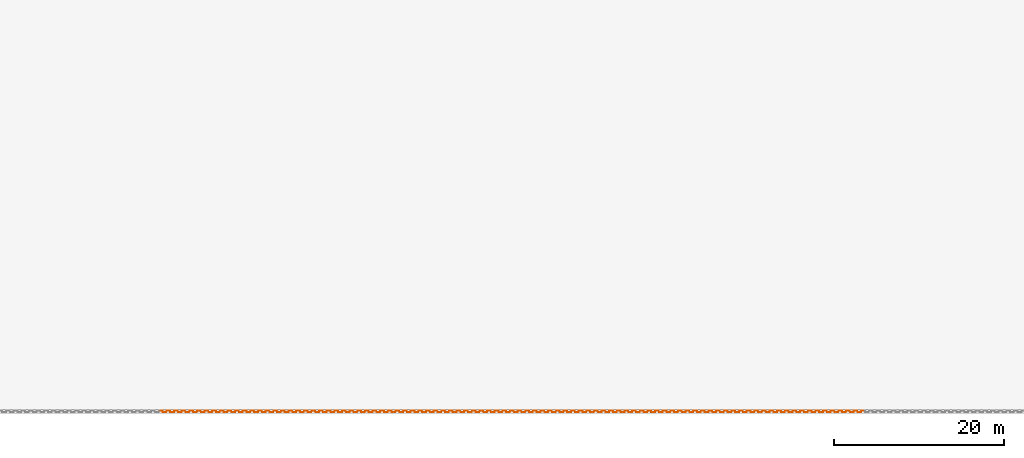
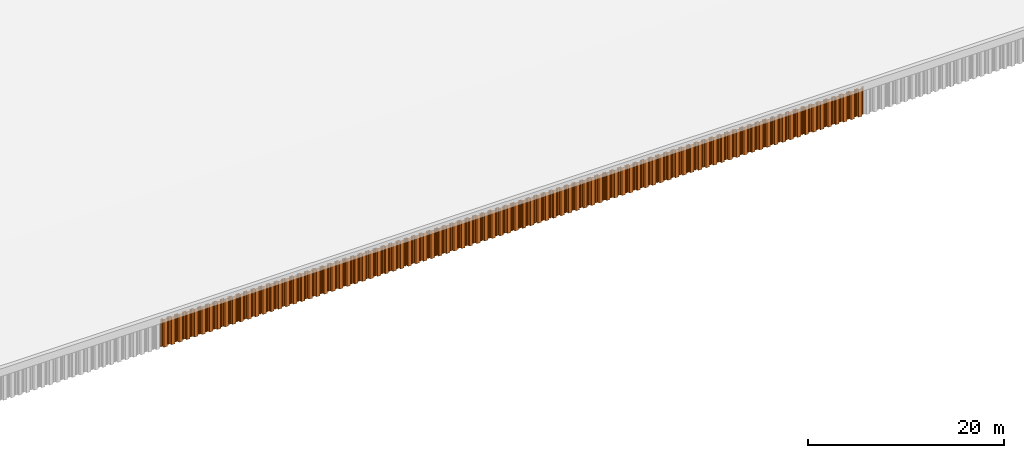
# One storey, part 17 of 32: 92 proxies.
"""IFC2X3 building model written with IfcOpenShell, lengths in millimetres."""

from ifc_helpers import new_model, entity, si_unit, converted_unit, derived_unit, direction, frame, frame_2d, origin, place, context, subcontext, project, spatial, polyline, circle_curve, parameter, trimmed, segment, composite_curve, outline, extrude, source, transform, mapped, type_object, type_shapes, element, save


model = new_model("IFC2X3")

# Units and contexts
model_context = context("Model", 3, precision=0.01, world=origin(), true_north=direction((6.12303176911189e-17, 1.0)))
body_context = subcontext(model_context, "Body", "Model", "MODEL_VIEW")
ifc_project = project(units=[si_unit("LENGTHUNIT", "METRE", prefix="MILLI"), si_unit("AREAUNIT", "SQUARE_METRE"), si_unit("VOLUMEUNIT", "CUBIC_METRE"), converted_unit("PLANEANGLEUNIT", "DEGREE", entity("IfcRatioMeasure", 0.0174532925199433), si_unit("PLANEANGLEUNIT", "RADIAN"), dimensions=[0, 0, 0, 0, 0, 0, 0]), si_unit("MASSUNIT", "GRAM", prefix="KILO"), derived_unit("MASSDENSITYUNIT", [(si_unit("MASSUNIT", "GRAM", prefix="KILO"), 1), (si_unit("LENGTHUNIT", "METRE"), -3)]), si_unit("TIMEUNIT", "SECOND"), si_unit("FREQUENCYUNIT", "HERTZ"), si_unit("THERMODYNAMICTEMPERATUREUNIT", "DEGREE_CELSIUS"), derived_unit("THERMALTRANSMITTANCEUNIT", [(si_unit("MASSUNIT", "GRAM", prefix="KILO"), 1), (si_unit("THERMODYNAMICTEMPERATUREUNIT", "KELVIN"), -1), (si_unit("TIMEUNIT", "SECOND"), -3)]), derived_unit("VOLUMETRICFLOWRATEUNIT", [(si_unit("LENGTHUNIT", "METRE"), 3), (si_unit("TIMEUNIT", "SECOND"), -1)]), si_unit("ELECTRICCURRENTUNIT", "AMPERE"), si_unit("ELECTRICVOLTAGEUNIT", "VOLT"), si_unit("POWERUNIT", "WATT"), si_unit("FORCEUNIT", "NEWTON", prefix="KILO"), si_unit("ILLUMINANCEUNIT", "LUX"), si_unit("LUMINOUSFLUXUNIT", "LUMEN"), si_unit("LUMINOUSINTENSITYUNIT", "CANDELA"), derived_unit("USERDEFINED", [(si_unit("MASSUNIT", "GRAM", prefix="KILO"), -1), (si_unit("LENGTHUNIT", "METRE"), -2), (si_unit("TIMEUNIT", "SECOND"), 3), (si_unit("LUMINOUSFLUXUNIT", "LUMEN"), 1)]), derived_unit("LINEARVELOCITYUNIT", [(si_unit("LENGTHUNIT", "METRE"), 1), (si_unit("TIMEUNIT", "SECOND"), -1)]), si_unit("PRESSUREUNIT", "PASCAL"), derived_unit("USERDEFINED", [(si_unit("LENGTHUNIT", "METRE"), -2), (si_unit("MASSUNIT", "GRAM", prefix="KILO"), 1), (si_unit("TIMEUNIT", "SECOND"), -2)])], contexts=[model_context])

# Site, building, storey
site_placement = place(None, origin())
site = spatial("IfcSite", under=ifc_project, at=site_placement, Name="Default", CompositionType="ELEMENT")
building_placement = place(site_placement, origin())
building = spatial("IfcBuilding", under=site, at=building_placement, CompositionType="ELEMENT")
storey_placement = place(building_placement, origin())
storey = spatial("IfcBuildingStorey", under=building, at=storey_placement, Name="矢板", CompositionType="ELEMENT", Elevation=0.0)

# Proxies
building_element_proxy_type = type_object("IfcBuildingElementProxyType", Name="鋼矢板10H型", PredefinedType="NOTDEFINED")
shared_shape = source(origin(), body_context, "Body", "SweptSolid", [
    extrude(outline(composite_curve([segment(trimmed(circle_curve(frame_2d((85.3662976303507, 306.644432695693), x_axis=(0.422618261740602, 0.906307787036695)), 13.885714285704), [parameter(24.9999999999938)], [parameter(90.0000000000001)], True, "PARAMETER"), True, "CONTINUOUS"), segment(polyline([(72.7815666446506, 312.512789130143), (9.8129512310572, 177.476157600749)]), True, "CONTINUOUS"), segment(trimmed(circle_curve(frame_2d((29.3891994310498, 168.347603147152), x_axis=(0.422618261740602, 0.906307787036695)), 21.6), [parameter(90.0000000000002)], [parameter(168.69006752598)], True, "PARAMETER"), True, "CONTINUOUS"), segment(polyline([(16.598697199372, 150.941769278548), (175.329723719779, 34.2998683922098)]), True, "CONTINUOUS"), segment(trimmed(circle_curve(frame_2d((168.93447260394, 25.596951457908), x_axis=(0.422618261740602, 0.906307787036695)), 10.7999999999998), [parameter(270.0)], [parameter(348.690067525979)], True, "PARAMETER"), False, "CONTINUOUS"), segment(polyline([(178.722596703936, 21.0326742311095), (18.2974003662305, -323.000269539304)]), True, "CONTINUOUS"), segment(trimmed(circle_curve(frame_2d((8.50927626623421, -318.435992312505), x_axis=(0.422618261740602, 0.906307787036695)), 10.8), [parameter(191.30993247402)], [parameter(269.999999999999)], True, "PARAMETER"), False, "CONTINUOUS"), segment(polyline([(5.95324328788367, -328.929166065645), (-185.429973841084, -282.310113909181)]), True, "CONTINUOUS"), segment(trimmed(circle_curve(frame_2d((-190.542039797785, -303.296461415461), x_axis=(0.422618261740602, 0.906307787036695)), 21.6000000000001), [parameter(11.3099324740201)], [parameter(90.0000000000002)], True, "PARAMETER"), True, "CONTINUOUS"), segment(polyline([(-210.118287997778, -294.167906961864), (-290.330886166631, -466.184378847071)]), True, "CONTINUOUS"), segment(trimmed(circle_curve(frame_2d((-270.754637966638, -475.312933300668), x_axis=(0.422618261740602, 0.906307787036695)), 21.6), [parameter(90.0000000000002)], [parameter(269.999999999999)], True, "PARAMETER"), True, "CONTINUOUS"), segment(polyline([(-251.178389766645, -484.441487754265), (-249.065298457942, -479.909948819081)]), True, "CONTINUOUS"), segment(polyline([(-249.065298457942, -479.909948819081), (-258.853422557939, -475.345671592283)]), True, "CONTINUOUS"), segment(polyline([(-258.853422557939, -475.345671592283), (-260.966513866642, -479.877210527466)]), True, "CONTINUOUS"), segment(trimmed(circle_curve(frame_2d((-270.754637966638, -475.312933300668), x_axis=(0.422618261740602, 0.906307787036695)), 10.8), [parameter(90.0000000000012)], [parameter(270.0)], True, "PARAMETER"), False, "CONTINUOUS"), segment(polyline([(-280.542762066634, -470.748656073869), (-200.330163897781, -298.732184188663)]), True, "CONTINUOUS"), segment(trimmed(circle_curve(frame_2d((-190.542039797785, -303.296461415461), x_axis=(0.422618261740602, 0.906307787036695)), 10.8), [parameter(11.3099324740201)], [parameter(89.9999999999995)], True, "PARAMETER"), False, "CONTINUOUS"), segment(polyline([(-187.986006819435, -292.803287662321), (3.39721030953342, -339.422339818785)]), True, "CONTINUOUS"), segment(trimmed(circle_curve(frame_2d((8.50927626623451, -318.435992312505), x_axis=(0.422618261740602, 0.906307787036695)), 21.6), [parameter(191.30993247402)], [parameter(270.0)], True, "PARAMETER"), True, "CONTINUOUS"), segment(polyline([(28.0855244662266, -327.564546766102), (188.510720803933, 16.4683970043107)]), True, "CONTINUOUS"), segment(trimmed(circle_curve(frame_2d((168.93447260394, 25.5969514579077), x_axis=(0.422618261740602, 0.906307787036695)), 21.6), [parameter(270.0)], [parameter(348.69006752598)], True, "PARAMETER"), True, "CONTINUOUS"), segment(polyline([(181.724974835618, 43.0027853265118), (22.9939483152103, 159.644686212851)]), True, "CONTINUOUS"), segment(trimmed(circle_curve(frame_2d((29.3891994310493, 168.347603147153), x_axis=(0.422618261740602, 0.906307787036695)), 10.7999999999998), [parameter(89.9999999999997)], [parameter(168.690067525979)], True, "PARAMETER"), False, "CONTINUOUS"), segment(polyline([(19.6010753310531, 172.911880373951), (82.5696907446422, 307.948511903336)]), True, "CONTINUOUS"), segment(trimmed(circle_curve(frame_2d((85.3662976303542, 306.64443269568), x_axis=(0.422618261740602, 0.906307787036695)), 3.08571428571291), [parameter(25.0000000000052)], [parameter(90.0000000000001)], True, "PARAMETER"), False, "CONTINUOUS"), segment(polyline([(85.3662976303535, 309.730146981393), (122.220231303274, 309.730146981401)]), True, "CONTINUOUS"), segment(trimmed(circle_curve(frame_2d((122.220231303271, 323.615861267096), x_axis=(0.422618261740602, 0.906307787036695)), 13.8857142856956), [parameter(205.000000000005)], [parameter(270.0)], True, "PARAMETER"), True, "CONTINUOUS"), segment(polyline([(134.804962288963, 317.747504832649), (141.079261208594, 331.202782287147)]), True, "CONTINUOUS"), segment(trimmed(circle_curve(frame_2d((121.503013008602, 340.331336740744), x_axis=(0.422618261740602, 0.906307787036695)), 21.6), [parameter(270.0)], [parameter(90.0000000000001)], True, "PARAMETER"), True, "CONTINUOUS"), segment(polyline([(101.926764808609, 349.459891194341), (99.8136734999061, 344.928352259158)]), True, "CONTINUOUS"), segment(polyline([(99.8136734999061, 344.928352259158), (109.601797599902, 340.364075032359)]), True, "CONTINUOUS"), segment(polyline([(109.601797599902, 340.364075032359), (111.714888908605, 344.895613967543)]), True, "CONTINUOUS"), segment(trimmed(circle_curve(frame_2d((121.503013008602, 340.331336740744), x_axis=(0.422618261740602, 0.906307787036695)), 10.8), [parameter(270.0)], [parameter(89.9999999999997)], True, "PARAMETER"), False, "CONTINUOUS"), segment(polyline([(131.291137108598, 335.767059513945), (125.01683818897, 322.311782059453)]), True, "CONTINUOUS"), segment(trimmed(circle_curve(frame_2d((122.220231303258, 323.615861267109), x_axis=(0.422618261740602, 0.906307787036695)), 3.08571428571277), [parameter(204.999999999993)], [parameter(270.0)], True, "PARAMETER"), False, "CONTINUOUS"), segment(polyline([(122.220231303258, 320.530146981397), (85.3662976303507, 320.530146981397)]), True, "CONTINUOUS")], self_intersect=False)), frame((95.205667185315, -48.8888888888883, -3500.0), z_axis=(0.0, 0.0, -1.0), x_axis=(0.4226182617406, 0.906307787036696, 0.0)), (0.0, 0.0, -1.0), 3500.0),
])
type_shapes(building_element_proxy_type, [shared_shape])
for number, where, z_axis, x_axis in (
    (1, (61902.4999999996, -52500.0, 5850.0), (0.0, 0.0, 1.0), (-1.0, 0.0, 0.0)),
    (2, (61002.4999999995, -52500.0, 5850.0), (0.0, 0.0, 1.0), (-1.0, 0.0, 0.0)),
    (3, (60102.4999999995, -52500.0, 5850.0), (0.0, 0.0, 1.0), (-1.0, 0.0, 0.0)),
    (4, (59202.4999999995, -52500.0, 5850.0), (0.0, 0.0, 1.0), (-1.0, 0.0, 0.0)),
    (5, (58302.4999999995, -52500.0, 5850.0), (0.0, 0.0, 1.0), (-1.0, 0.0, 0.0)),
    (6, (57402.4999999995, -52500.0, 5850.0), (0.0, 0.0, 1.0), (-1.0, 0.0, 0.0)),
    (7, (56502.4999999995, -52500.0, 5850.0), (0.0, 0.0, 1.0), (-1.0, 0.0, 0.0)),
    (8, (55602.4999999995, -52500.0, 5850.0), (0.0, 0.0, 1.0), (-1.0, 0.0, 0.0)),
    (9, (54702.4999999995, -52500.0, 5850.0), (0.0, 0.0, 1.0), (-1.0, 0.0, 0.0)),
    (10, (53802.4999999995, -52500.0, 5850.0), (0.0, 0.0, 1.0), (-1.0, 0.0, 0.0)),
    (11, (52902.4999999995, -52500.0, 5850.0), (0.0, 0.0, 1.0), (-1.0, 0.0, 0.0)),
    (12, (52002.4999999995, -52500.0, 5850.0), (0.0, 0.0, 1.0), (-1.0, 0.0, 0.0)),
    (13, (51102.4999999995, -52500.0, 5850.0), (0.0, 0.0, 1.0), (-1.0, 0.0, 0.0)),
    (14, (50202.4999999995, -52500.0, 5850.0), (0.0, 0.0, 1.0), (-1.0, 0.0, 0.0)),
    (15, (49302.4999999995, -52500.0, 5850.0), (0.0, 0.0, 1.0), (-1.0, 0.0, 0.0)),
    (16, (48402.4999999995, -52500.0, 5850.0), (0.0, 0.0, 1.0), (-1.0, 0.0, 0.0)),
    (17, (47502.4999999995, -52500.0, 5850.0), (0.0, 0.0, 1.0), (-1.0, 0.0, 0.0)),
    (18, (46602.4999999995, -52500.0, 5850.0), (0.0, 0.0, 1.0), (-1.0, 0.0, 0.0)),
    (19, (45702.4999999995, -52500.0, 5850.0), (0.0, 0.0, 1.0), (-1.0, 0.0, 0.0)),
    (20, (44802.4999999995, -52500.0, 5850.0), (0.0, 0.0, 1.0), (-1.0, 0.0, 0.0)),
    (21, (43902.4999999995, -52500.0, 5850.0), (0.0, 0.0, 1.0), (-1.0, 0.0, 0.0)),
    (22, (43002.4999999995, -52500.0, 5850.0), (0.0, 0.0, 1.0), (-1.0, 0.0, 0.0)),
    (23, (42102.4999999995, -52500.0, 5850.0), (0.0, 0.0, 1.0), (-1.0, 0.0, 0.0)),
    (24, (41202.4999999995, -52500.0, 5850.0), (0.0, 0.0, 1.0), (-1.0, 0.0, 0.0)),
    (25, (40302.4999999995, -52500.0, 5850.0), (0.0, 0.0, 1.0), (-1.0, 0.0, 0.0)),
    (26, (39402.4999999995, -52500.0, 5850.0), (0.0, 0.0, 1.0), (-1.0, 0.0, 0.0)),
    (27, (38502.4999999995, -52500.0, 5850.0), (0.0, 0.0, 1.0), (-1.0, 0.0, 0.0)),
    (28, (37602.4999999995, -52500.0, 5850.0), (0.0, 0.0, 1.0), (-1.0, 0.0, 0.0)),
    (29, (36702.4999999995, -52500.0, 5850.0), (0.0, 0.0, 1.0), (-1.0, 0.0, 0.0)),
    (30, (35802.4999999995, -52500.0, 5850.0), (0.0, 0.0, 1.0), (-1.0, 0.0, 0.0)),
    (31, (34902.4999999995, -52500.0, 5850.0), (0.0, 0.0, 1.0), (-1.0, 0.0, 0.0)),
    (32, (34002.4999999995, -52500.0, 5850.0), (0.0, 0.0, 1.0), (-1.0, 0.0, 0.0)),
    (33, (33102.4999999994, -52500.0, 5850.0), (0.0, 0.0, 1.0), (-1.0, 0.0, 0.0)),
    (34, (32202.4999999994, -52500.0, 5850.0), (0.0, 0.0, 1.0), (-1.0, 0.0, 0.0)),
    (35, (31302.4999999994, -52500.0, 5850.0), (0.0, 0.0, 1.0), (-1.0, 0.0, 0.0)),
    (36, (30402.4999999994, -52500.0, 5850.0), (0.0, 0.0, 1.0), (-1.0, 0.0, 0.0)),
    (37, (29502.4999999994, -52500.0, 5850.0), (0.0, 0.0, 1.0), (-1.0, 0.0, 0.0)),
    (38, (28602.4999999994, -52500.0, 5850.0), (0.0, 0.0, 1.0), (-1.0, 0.0, 0.0)),
    (39, (27702.4999999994, -52500.0, 5850.0), (0.0, 0.0, 1.0), (-1.0, 0.0, 0.0)),
    (40, (26802.4999999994, -52500.0, 5850.0), (0.0, 0.0, 1.0), (-1.0, 0.0, 0.0)),
    (41, (25902.4999999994, -52500.0, 5850.0), (0.0, 0.0, 1.0), (-1.0, 0.0, 0.0)),
    (42, (25002.4999999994, -52500.0, 5850.0), (0.0, 0.0, 1.0), (-1.0, 0.0, 0.0)),
    (43, (24102.4999999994, -52500.0, 5850.0), (0.0, 0.0, 1.0), (-1.0, 0.0, 0.0)),
    (44, (23202.4999999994, -52500.0, 5850.0), (0.0, 0.0, 1.0), (-1.0, 0.0, 0.0)),
    (45, (22302.4999999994, -52500.0, 5850.0), (0.0, 0.0, 1.0), (-1.0, 0.0, 0.0)),
    (46, (21402.4999999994, -52500.0, 5850.0), (0.0, 0.0, 1.0), (-1.0, 0.0, 0.0)),
    (47, (20502.4999999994, -52500.0, 5850.0), (0.0, 0.0, 1.0), (-1.0, 0.0, 0.0)),
    (48, (19602.4999999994, -52500.0, 5850.0), (0.0, 0.0, 1.0), (-1.0, 0.0, 0.0)),
    (49, (18702.4999999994, -52500.0, 5850.0), (0.0, 0.0, 1.0), (-1.0, 0.0, 0.0)),
    (50, (17802.4999999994, -52500.0, 5850.0), (0.0, 0.0, 1.0), (-1.0, 0.0, 0.0)),
    (51, (16902.4999999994, -52500.0, 5850.0), (0.0, 0.0, 1.0), (-1.0, 0.0, 0.0)),
    (52, (16002.4999999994, -52500.0, 5850.0), (0.0, 0.0, 1.0), (-1.0, 0.0, 0.0)),
    (53, (15102.4999999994, -52500.0, 5850.0), (0.0, 0.0, 1.0), (-1.0, 0.0, 0.0)),
    (54, (14202.4999999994, -52500.0, 5850.0), (0.0, 0.0, 1.0), (-1.0, 0.0, 0.0)),
    (55, (13302.4999999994, -52500.0, 5850.0), (0.0, 0.0, 1.0), (-1.0, 0.0, 0.0)),
    (56, (12402.4999999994, -52500.0, 5850.0), (0.0, 0.0, 1.0), (-1.0, 0.0, 0.0)),
    (57, (11502.4999999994, -52500.0, 5850.0), (0.0, 0.0, 1.0), (-1.0, 0.0, 0.0)),
    (58, (10602.4999999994, -52500.0, 5850.0), (0.0, 0.0, 1.0), (-1.0, 0.0, 0.0)),
    (59, (9702.49999999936, -52500.0, 5850.0), (0.0, 0.0, 1.0), (-1.0, 0.0, 0.0)),
    (60, (8802.49999999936, -52500.0, 5850.0), (0.0, 0.0, 1.0), (-1.0, 0.0, 0.0)),
    (61, (7902.49999999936, -52500.0, 5850.0), (0.0, 0.0, 1.0), (-1.0, 0.0, 0.0)),
    (62, (7002.49999999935, -52500.0, 5850.0), (0.0, 0.0, 1.0), (-1.0, 0.0, 0.0)),
    (63, (6102.49999999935, -52500.0, 5850.0), (0.0, 0.0, 1.0), (-1.0, 0.0, 0.0)),
    (64, (5202.49999999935, -52500.0, 5850.0), (0.0, 0.0, 1.0), (-1.0, 0.0, 0.0)),
    (65, (4302.49999999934, -52500.0, 5850.0), (0.0, 0.0, 1.0), (-1.0, 0.0, 0.0)),
    (66, (3402.49999999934, -52500.0, 5850.0), (0.0, 0.0, 1.0), (-1.0, 0.0, 0.0)),
    (67, (2502.49999999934, -52500.0, 5850.0), (0.0, 0.0, 1.0), (-1.0, 0.0, 0.0)),
    (68, (1602.49999999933, -52500.0, 5850.0), (0.0, 0.0, 1.0), (-1.0, 0.0, 0.0)),
    (69, (702.499999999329, -52500.0, 5850.0), (0.0, 0.0, 1.0), (-1.0, 0.0, 0.0)),
    (70, (-197.500000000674, -52500.0, 5850.0), (0.0, 0.0, 1.0), (-1.0, 0.0, 0.0)),
    (71, (-1097.50000000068, -52500.0, 5850.0), (0.0, 0.0, 1.0), (-1.0, 0.0, 0.0)),
    (72, (-1997.50000000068, -52500.0, 5850.0), (0.0, 0.0, 1.0), (-1.0, 0.0, 0.0)),
    (73, (-2897.50000000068, -52500.0, 5850.0), (0.0, 0.0, 1.0), (-1.0, 0.0, 0.0)),
    (74, (-3797.50000000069, -52500.0, 5850.0), (0.0, 0.0, 1.0), (-1.0, 0.0, 0.0)),
    (75, (-4697.50000000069, -52500.0, 5850.0), (0.0, 0.0, 1.0), (-1.0, 0.0, 0.0)),
    (76, (-5597.50000000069, -52500.0, 5850.0), (0.0, 0.0, 1.0), (-1.0, 0.0, 0.0)),
    (77, (-6497.5000000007, -52500.0, 5850.0), (0.0, 0.0, 1.0), (-1.0, 0.0, 0.0)),
    (78, (-7397.5000000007, -52500.0, 5850.0), (0.0, 0.0, 1.0), (-1.0, 0.0, 0.0)),
    (79, (-8297.5000000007, -52500.0, 5850.0), (0.0, 0.0, 1.0), (-1.0, 0.0, 0.0)),
    (80, (-9197.50000000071, -52500.0, 5850.0), (0.0, 0.0, 1.0), (-1.0, 0.0, 0.0)),
    (81, (-10097.5000000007, -52500.0, 5850.0), (0.0, 0.0, 1.0), (-1.0, 0.0, 0.0)),
    (82, (-10997.5000000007, -52500.0, 5850.0), (0.0, 0.0, 1.0), (-1.0, 0.0, 0.0)),
    (83, (-11897.5000000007, -52500.0, 5850.0), (0.0, 0.0, 1.0), (-1.0, 0.0, 0.0)),
    (84, (-12797.5000000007, -52500.0, 5850.0), (0.0, 0.0, 1.0), (-1.0, 0.0, 0.0)),
    (85, (-13697.5000000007, -52500.0, 5850.0), (0.0, 0.0, 1.0), (-1.0, 0.0, 0.0)),
    (86, (-14597.5000000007, -52500.0, 5850.0), (0.0, 0.0, 1.0), (-1.0, 0.0, 0.0)),
    (87, (-15497.5000000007, -52500.0, 5850.0), (0.0, 0.0, 1.0), (-1.0, 0.0, 0.0)),
    (88, (-16397.5000000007, -52500.0, 5850.0), (0.0, 0.0, 1.0), (-1.0, 0.0, 0.0)),
    (89, (-17297.5000000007, -52500.0, 5850.0), (0.0, 0.0, 1.0), (-1.0, 0.0, 0.0)),
    (90, (-18197.5000000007, -52500.0, 5850.0), (0.0, 0.0, 1.0), (-1.0, 0.0, 0.0)),
    (91, (-19097.5000000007, -52500.0, 5850.0), (0.0, 0.0, 1.0), (-1.0, 0.0, 0.0)),
    (92, (-19997.5000000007, -52500.0, 5850.0), (0.0, 0.0, 1.0), (-1.0, 0.0, 0.0)),
):
    element("IfcBuildingElementProxy", number, at=place(storey_placement, frame(where, z_axis=z_axis, x_axis=x_axis)), inside=storey, type_object=building_element_proxy_type, Name="鋼矢板10H型:鋼矢板10H型", ObjectType="鋼矢板10H型:鋼矢板10H型", context=body_context, shape_type="MappedRepresentation", body=[
        mapped(shared_shape, transform((0.0, 0.0, 0.0), scale=1.0)),
    ])

save(model, "model.ifc")
